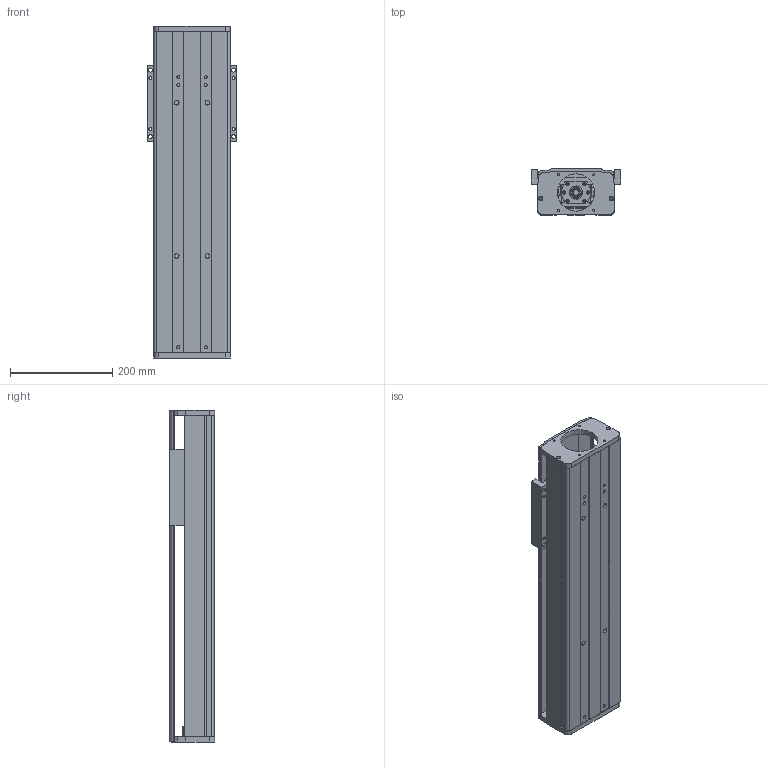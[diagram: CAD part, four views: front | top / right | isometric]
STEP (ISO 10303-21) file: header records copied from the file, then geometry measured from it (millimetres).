
FILE_DESCRIPTION (( 'STEP AP203' ), '1' );
FILE_NAME ('CF150-P350.STEP', '2016-02-23T05:52:45', ( 'Sky123.Org' ), ( 'Sky123.Org' ), 'SwSTEP 2.0', 'SolidWorks 2015', '' );
FILE_SCHEMA (( 'CONFIG_CONTROL_DESIGN' ));
Length unit declared in the file: millimetre
Products named in the file (20): SFU2005-3蹟譫; BF15; 蚾饜极2^蚾饜极1; deep groove ball bearings gb_Rolling bearings 6002 GB 276-94; 150賑輸; ѹȦ-15; 150臏倰第; 150耜啣; 长撑圈-15; HGR15絳寢; CF150裔啣; M15X1坶踡蹟譫; hGH15CA賑輸; CF150-P350; 撑圈-15; BK15+BF15; BK15; 150-20蹟譫釱; 150-86俋离萇儂假蚾啣
Assembly tree (24 placements, depth 3):
  CF150-P350
    150臏倰第
    HGR15絳寢  x2
    hGH15CA賑輸  x4
    BK15+BF15
    150-20蹟譫釱
    150-86俋离萇儂假蚾啣
    BF15
    BK15
      deep groove ball bearings gb_Rolling bearings 6002 GB 276-94  x2
      ѹȦ-15
      长撑圈-15
      M15X1坶踡蹟譫
      撑圈-15
      BK15
    蚾饜极2^蚾饜极1
      SFU2005-3蹟譫
    150賑輸
    150耜啣
    CF150裔啣
Bounding box: 175 x 89 x 650.24 mm (x, y, z)
Volume: 3598908.9 mm3; surface area: 1128259.9 mm2
Topology: 22 solids, 22 shells, 1398 faces, 4250 edges, 2830 vertices
Faces by surface type: cylinder 659, plane 543, torus 112, sphere 64, cone 16, bspline 4
Entity records: 112400 total; most frequent: CARTESIAN_POINT 83736, ORIENTED_EDGE 5722, DIRECTION 5343, EDGE_CURVE 2861, AXIS2_PLACEMENT_3D 2018, VERTEX_POINT 1904, VECTOR 1307, LINE 1307
